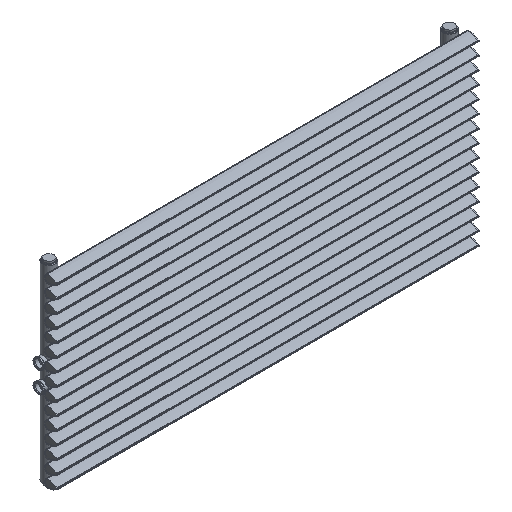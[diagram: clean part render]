
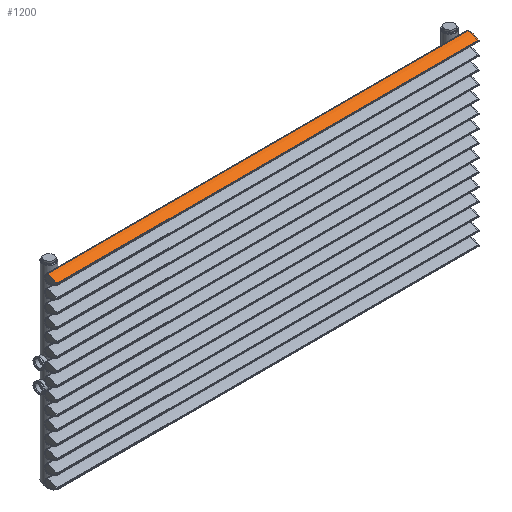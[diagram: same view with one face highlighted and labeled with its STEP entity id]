
A CAD part, isometric view. The second image highlights one B-rep face of the part: STEP entity #1200.
In plain terms, the highlighted cylindrical face has radius 51.638 mm (diameter 103.277 mm), a partial arc.
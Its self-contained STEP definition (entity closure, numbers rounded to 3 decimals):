
#114=LINE('',#3092,#148);
#115=LINE('',#3095,#149);
#148=VECTOR('',#1537,10.);
#149=VECTOR('',#1540,10.);
#372=FACE_OUTER_BOUND('',#494,.T.);
#494=EDGE_LOOP('',(#990,#991,#992,#993));
#557=CIRCLE('',#1332,51.638);
#558=CIRCLE('',#1333,51.638);
#662=VERTEX_POINT('',#3088);
#663=VERTEX_POINT('',#3089);
#664=VERTEX_POINT('',#3091);
#665=VERTEX_POINT('',#3093);
#783=EDGE_CURVE('',#662,#663,#557,.T.);
#784=EDGE_CURVE('',#662,#664,#114,.T.);
#785=EDGE_CURVE('',#665,#664,#558,.T.);
#786=EDGE_CURVE('',#663,#665,#115,.T.);
#990=ORIENTED_EDGE('',*,*,#783,.F.);
#991=ORIENTED_EDGE('',*,*,#784,.T.);
#992=ORIENTED_EDGE('',*,*,#785,.F.);
#993=ORIENTED_EDGE('',*,*,#786,.F.);
#1157=CYLINDRICAL_SURFACE('',#1331,51.638);
#1200=ADVANCED_FACE('',(#372),#1157,.T.);
#1331=AXIS2_PLACEMENT_3D('',#3087,#1533,#1534);
#1332=AXIS2_PLACEMENT_3D('',#3090,#1535,#1536);
#1333=AXIS2_PLACEMENT_3D('',#3094,#1538,#1539);
#1533=DIRECTION('center_axis',(0.,0.,-1.));
#1534=DIRECTION('ref_axis',(0.837,-0.547,0.));
#1535=DIRECTION('center_axis',(0.,0.,1.));
#1536=DIRECTION('ref_axis',(0.837,-0.547,0.));
#1537=DIRECTION('',(0.,0.,-1.));
#1538=DIRECTION('center_axis',(0.,0.,-1.));
#1539=DIRECTION('ref_axis',(0.837,-0.547,0.));
#1540=DIRECTION('',(0.,0.,-1.));
#3087=CARTESIAN_POINT('Origin',(-41.424,-0.617,0.));
#3088=CARTESIAN_POINT('',(1.804,-28.863,0.));
#3089=CARTESIAN_POINT('',(10.063,-4.573,0.));
#3090=CARTESIAN_POINT('Origin',(-41.424,-0.617,0.));
#3091=CARTESIAN_POINT('',(1.804,-28.863,-1000.));
#3092=CARTESIAN_POINT('',(1.804,-28.863,0.));
#3093=CARTESIAN_POINT('',(10.063,-4.573,-1000.));
#3094=CARTESIAN_POINT('Origin',(-41.424,-0.617,-1000.));
#3095=CARTESIAN_POINT('',(10.063,-4.573,0.));
